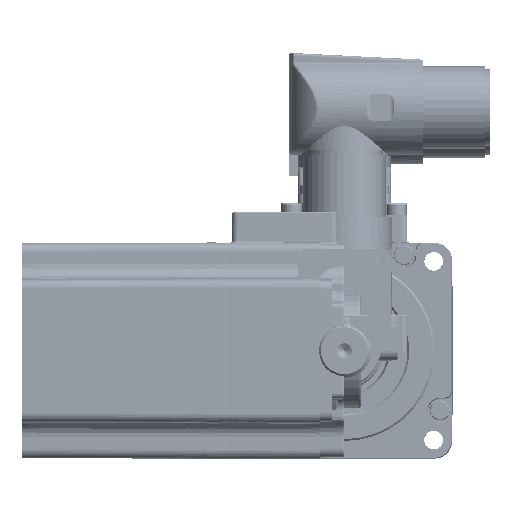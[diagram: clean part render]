
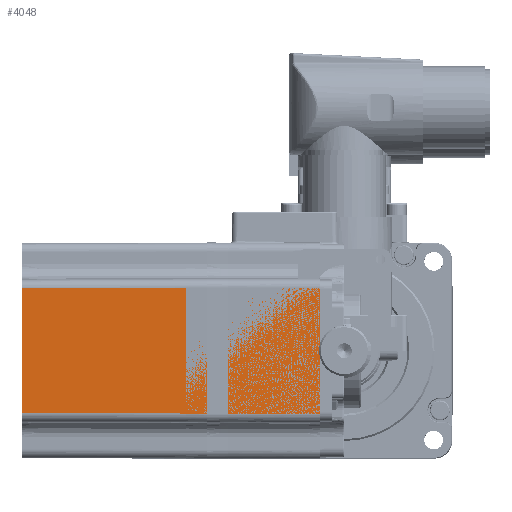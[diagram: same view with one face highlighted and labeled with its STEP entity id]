
A CAD part, front view. The second image highlights one B-rep face of the part: STEP entity #4048.
In plain terms, the highlighted planar face has unit normal (-0.003, -1, 0).
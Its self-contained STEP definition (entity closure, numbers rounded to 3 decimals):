
#4048 = ADVANCED_FACE( '', ( #8394 ), #8395, .T. );
#8394 = FACE_OUTER_BOUND( '', #16351, .T. );
#8395 = PLANE( '', #16352 );
#16351 = EDGE_LOOP( '', ( #27913, #27914, #27915, #27916 ) );
#16352 = AXIS2_PLACEMENT_3D( '', #27917, #27918, #27919 );
#27913 = ORIENTED_EDGE( '', *, *, #33213, .T. );
#27914 = ORIENTED_EDGE( '', *, *, #31654, .T. );
#27915 = ORIENTED_EDGE( '', *, *, #31855, .T. );
#27916 = ORIENTED_EDGE( '', *, *, #32250, .T. );
#27917 = CARTESIAN_POINT( '', ( -6., -30., 0. ) );
#27918 = DIRECTION( '', ( -0.003, -1., 0. ) );
#27919 = DIRECTION( '', ( 1., -0.003, 0. ) );
#31654 = EDGE_CURVE( '', #39455, #39453, #39456, .T. );
#31855 = EDGE_CURVE( '', #39453, #39738, #39739, .T. );
#32250 = EDGE_CURVE( '', #39738, #40271, #40273, .T. );
#33213 = EDGE_CURVE( '', #40271, #39455, #41446, .T. );
#39453 = VERTEX_POINT( '', #52852 );
#39455 = VERTEX_POINT( '', #52854 );
#39456 = LINE( '', #52855, #52856 );
#39738 = VERTEX_POINT( '', #53533 );
#39739 = LINE( '', #53534, #53535 );
#40271 = VERTEX_POINT( '', #54502 );
#40273 = LINE( '', #54504, #54505 );
#41446 = LINE( '', #56833, #56834 );
#52852 = CARTESIAN_POINT( '', ( -6.75, -29.998, 17.498 ) );
#52854 = CARTESIAN_POINT( '', ( -6.75, -29.998, -17.498 ) );
#52855 = CARTESIAN_POINT( '', ( -6.75, -29.998, 0. ) );
#52856 = VECTOR( '', #61310, 1000. );
#53533 = CARTESIAN_POINT( '', ( -89.25, -29.758, 17.258 ) );
#53534 = CARTESIAN_POINT( '', ( -89.993, -29.756, 17.256 ) );
#53535 = VECTOR( '', #61543, 1000. );
#54502 = CARTESIAN_POINT( '', ( -89.25, -29.758, -17.258 ) );
#54504 = CARTESIAN_POINT( '', ( -89.25, -29.758, 0. ) );
#54505 = VECTOR( '', #61952, 1000. );
#56833 = CARTESIAN_POINT( '', ( -5.993, -30., -17.5 ) );
#56834 = VECTOR( '', #62895, 1000. );
#61310 = DIRECTION( '', ( 0., 0., 1. ) );
#61543 = DIRECTION( '', ( -1., 0.003, -0.003 ) );
#61952 = DIRECTION( '', ( 0., 0., -1. ) );
#62895 = DIRECTION( '', ( 1., -0.003, -0.003 ) );
